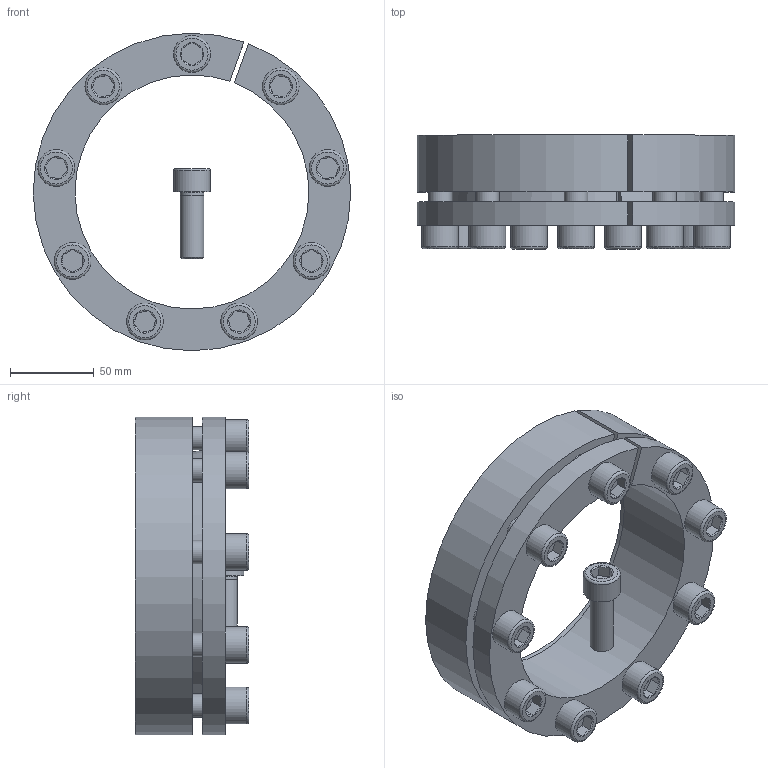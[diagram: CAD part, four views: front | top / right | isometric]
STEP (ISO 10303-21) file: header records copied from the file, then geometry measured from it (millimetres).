
FILE_DESCRIPTION( ( 'Unknown' ), '1' );
FILE_NAME( 'C:/Dokumente und Einstellungen/Sven/Desktop/homepage/cad - homepage/KBS13/KBS 13 - 140 x 190.stp', 'Unknown', ( 'Unknown' ), ( 'Unknown' ), 'XStep 1.0', 'Unknown', ' ' );
FILE_SCHEMA( ( 'automotive_design' ) );
Length unit declared in the file: millimetre
Products named in the file (3): Assem1; KBS 13 - 140 x 190; ISO EN DIN 4762 M14x40
Bounding box: 189.99 x 68 x 189.99 mm (x, y, z)
Volume: 1232884.4 mm3; surface area: 274392.3 mm2
Topology: 12 solids, 12 shells, 310 faces, 634 edges, 388 vertices
Faces by surface type: plane 134, cylinder 82, cone 74, torus 20
Full cylindrical faces by diameter (mm): 12 x10, 14 x56, 22 x10
Entity records: 1860 total; most frequent: CARTESIAN_POINT 316, DIRECTION 286, ORIENTED_EDGE 202, AXIS2_PLACEMENT_3D 129, EDGE_LOOP 120, EDGE_CURVE 101, FACE_OUTER_BOUND 79, VERTEX_POINT 79
